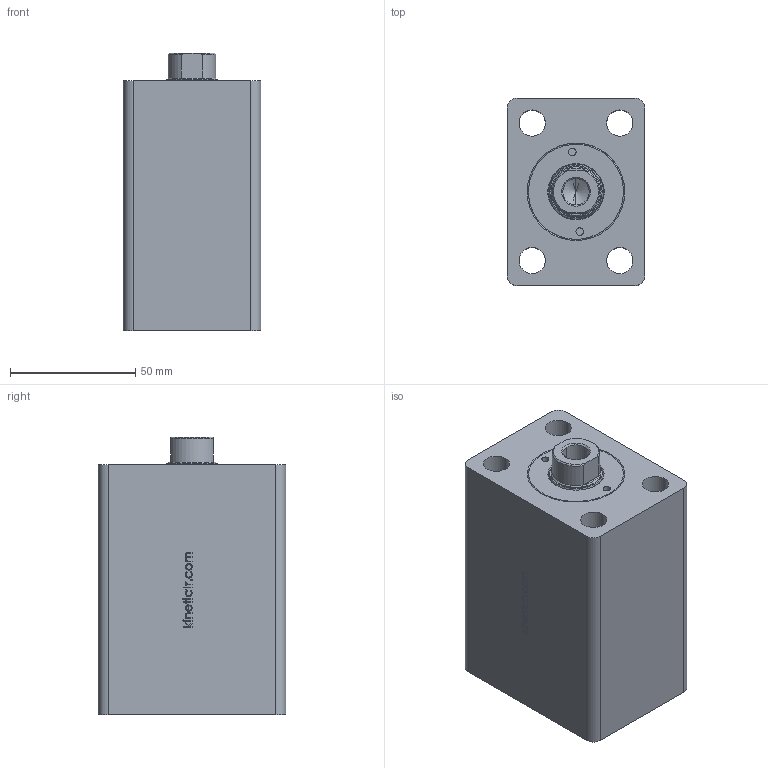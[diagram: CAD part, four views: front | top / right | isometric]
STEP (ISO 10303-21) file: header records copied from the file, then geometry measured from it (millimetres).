
FILE_DESCRIPTION (( 'STEP AP214' ), '1' );
FILE_NAME ('KBZ_02_32_20_50_WEB.STEP', '2020-05-27T09:21:04', ( '' ), ( '' ), 'SwSTEP 2.0', 'SolidWorks 2018', '' );
FILE_SCHEMA (( 'AUTOMOTIVE_DESIGN' ));
Length unit declared in the file: millimetre
Products named in the file (5): KBZ_02_32_ON_kapak_WEB; KBZ_02_32_20_50_WEB; K06-20X25X4_3X6; KBZ_02_32_GOVDE; 20_K_MIL
Assembly tree (4 placements, depth 2):
  KBZ_02_32_20_50_WEB
    KBZ_02_32_GOVDE
    20_K_MIL
    KBZ_02_32_ON_kapak_WEB
    K06-20X25X4_3X6
Bounding box: 55 x 75 x 111 mm (x, y, z)
Volume: 350032.6 mm3; surface area: 65364.6 mm2
Topology: 4 solids, 4 shells, 341 faces, 825 edges, 526 vertices
Faces by surface type: plane 133, cylinder 72, bspline 69, cone 67
Entity records: 13510 total; most frequent: CARTESIAN_POINT 5543, ORIENTED_EDGE 1646, DIRECTION 1438, EDGE_CURVE 823, VERTEX_POINT 526, AXIS2_PLACEMENT_3D 491, LINE 456, VECTOR 456
